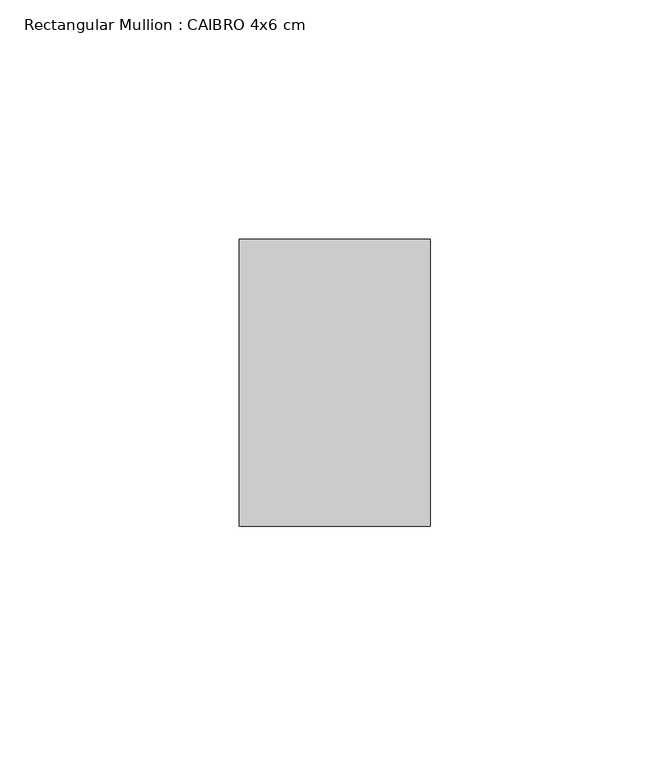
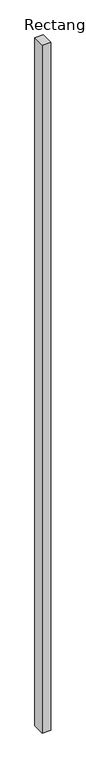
"""IFC4 building model written with IfcOpenShell, lengths in millimetres: member geometry, Rectangular Mullion : CAIBRO 4x6 cm."""

import ifcopenshell
import ifcopenshell.guid

model = None  # the IFC model being written
_history = None  # IfcOwnerHistory: only IFC2X3 demands one
_inside = {}  # id of a spatial element -> (the spatial element, [elements in it])
_under = {}  # id of a project, library or spatial element -> (it, [spatial elements below it])
_declared = {}  # id of a project -> (the project, [libraries it declares])
_typed = {}  # id of a type object -> (the type object, [elements of that type])
_made_of = {}  # id of a material, layer set ... -> (it, [elements and type objects made of it])


def new_model(schema):
    """Start an empty IFC model of exactly this schema.

    Asked for "IFC4X3", IfcOpenShell would pick the latest addendum, in which some entities
    have other attributes; the version numbers below select the first issue.
    IFC2X3 requires an IfcOwnerHistory on every rooted entity: one is made here for all.
    """
    global model, _history
    if schema == "IFC4X3":
        model = ifcopenshell.file(schema_version=(4, 3, 0, 0))
    else:
        model = ifcopenshell.file(schema=schema)
    _inside.clear()
    _under.clear()
    _declared.clear()
    _typed.clear()
    _made_of.clear()
    _history = None
    if model.schema == "IFC2X3":
        org = make("IfcOrganization", Name="unknown")
        user = make(
            "IfcPersonAndOrganization",
            ThePerson=make("IfcPerson", FamilyName="unknown"),
            TheOrganization=org,
        )
        app = make(
            "IfcApplication",
            ApplicationDeveloper=org,
            Version="unknown",
            ApplicationFullName="unknown",
            ApplicationIdentifier="unknown",
        )
        _history = make(
            "IfcOwnerHistory",
            OwningUser=user,
            OwningApplication=app,
            ChangeAction="ADDED",
            CreationDate=0,
        )
    return model


def make(cls, **values):
    """One entity of the class cls with the attributes given. An attribute that is None is left unset."""
    return model.create_entity(
        cls, **{name: value for name, value in values.items() if value is not None}
    )


def rooted(cls, **values):
    """An entity with a GlobalId (a new one), such as an element, a storey or a relation."""
    return make(cls, GlobalId=ifcopenshell.guid.new(), OwnerHistory=_history, **values)


def si_unit(unit_type, name, prefix=None):
    """IfcSIUnit, for example si_unit("LENGTHUNIT", "METRE", prefix="MILLI")."""
    return make("IfcSIUnit", UnitType=unit_type, Prefix=prefix, Name=name)


def assignment(units):
    """IfcUnitAssignment: the units of a project."""
    return None if units is None else make("IfcUnitAssignment", Units=units)


def point(xyz):
    """IfcCartesianPoint."""
    return None if xyz is None else make("IfcCartesianPoint", Coordinates=xyz)


def direction(xyz):
    """IfcDirection."""
    return None if xyz is None else make("IfcDirection", DirectionRatios=xyz)


def frame(location, z_axis=None, x_axis=None):
    """IfcAxis2Placement3D, a coordinate frame: its origin and axes. An axis left out is left unset."""
    return make(
        "IfcAxis2Placement3D",
        Location=point(location),
        Axis=direction(z_axis),
        RefDirection=direction(x_axis),
    )


def origin():
    """The frame at (0, 0, 0) with its axes left unset."""
    return frame((0.0, 0.0, 0.0))


def place(relative_to, where):
    """IfcLocalPlacement: puts the frame where relative to a parent placement (None: the world)."""
    return make(
        "IfcLocalPlacement", PlacementRelTo=relative_to, RelativePlacement=where
    )


def context(
    kind, dimensions, precision=None, world=None, true_north=None, identifier=None
):
    """IfcGeometricRepresentationContext, for example the 3D "Model" context."""
    return make(
        "IfcGeometricRepresentationContext",
        ContextIdentifier=identifier,
        ContextType=kind,
        CoordinateSpaceDimension=dimensions,
        Precision=precision,
        WorldCoordinateSystem=world,
        TrueNorth=true_north,
    )


def project(units=None, contexts=None):
    """IfcProject with its units and contexts."""
    return rooted(
        "IfcProject",
        Name="project",
        RepresentationContexts=contexts,
        UnitsInContext=assignment(units),
    )


def spatial(cls, under=None, at=None, **own):
    """A site, building, storey or space (cls), placed at a placement, below another one or the project."""
    s = rooted(cls, ObjectPlacement=at, **own)
    if under is not None:
        _under.setdefault(under.id(), (under, []))[1].append(s)
    return s


def polyline(points):
    """IfcPolyline through the points."""
    return make("IfcPolyline", Points=[point(p) for p in points])


def outline(outer, holes=None, kind="AREA"):
    """IfcArbitraryClosedProfileDef: a profile drawn as a closed curve; with holes, ...WithVoids."""
    if holes is None:
        return make("IfcArbitraryClosedProfileDef", ProfileType=kind, OuterCurve=outer)
    return make(
        "IfcArbitraryProfileDefWithVoids",
        ProfileType=kind,
        OuterCurve=outer,
        InnerCurves=holes,
    )


def extrude(swept, where, along, depth):
    """IfcExtrudedAreaSolid: the profile swept, set in the frame where, extruded along a direction by depth."""
    return make(
        "IfcExtrudedAreaSolid",
        SweptArea=swept,
        Position=where,
        ExtrudedDirection=direction(along),
        Depth=depth,
    )


def shape(context_of_items, identifier, shape_type, items):
    """IfcShapeRepresentation: the items that make up one representation, for example the "Body"."""
    return make(
        "IfcShapeRepresentation",
        ContextOfItems=context_of_items,
        RepresentationIdentifier=identifier,
        RepresentationType=shape_type,
        Items=items,
    )


def source(mapping_origin, context_of_items, identifier, shape_type, items):
    """IfcRepresentationMap: a shape defined once, which mapped items show again and again."""
    return make(
        "IfcRepresentationMap",
        MappingOrigin=mapping_origin,
        MappedRepresentation=shape(context_of_items, identifier, shape_type, items),
    )


def transform(
    local_origin,
    x_axis=None,
    y_axis=None,
    z_axis=None,
    scale=None,
    scale2=None,
    scale3=None,
    uniform=True,
):
    """IfcCartesianTransformationOperator3D, or its non-uniform kind. x_axis, y_axis, z_axis: its Axis1, 2, 3."""
    if uniform:
        return make(
            "IfcCartesianTransformationOperator3D",
            Axis1=direction(x_axis),
            Axis2=direction(y_axis),
            LocalOrigin=point(local_origin),
            Scale=scale,
            Axis3=direction(z_axis),
        )
    return make(
        "IfcCartesianTransformationOperator3DnonUniform",
        Axis1=direction(x_axis),
        Axis2=direction(y_axis),
        LocalOrigin=point(local_origin),
        Scale=scale,
        Axis3=direction(z_axis),
        Scale2=scale2,
        Scale3=scale3,
    )


def mapped(mapping_source, mapping_target):
    """IfcMappedItem: shows the shape of a source again, moved by a transform."""
    return make(
        "IfcMappedItem", MappingSource=mapping_source, MappingTarget=mapping_target
    )


def made_of(thing, what):
    """Note that an element or type object is made of a material, layer set ...; save() writes the relation."""
    if what is not None:
        _made_of.setdefault(what.id(), (what, []))[1].append(thing)
    return thing


def element(
    cls,
    number,
    at=None,
    inside=None,
    cuts=None,
    type_object=None,
    material=None,
    context=None,
    identifier="Body",
    shape_type=None,
    held_by="IfcProductDefinitionShape",
    body=None,
    shapes=None,
    **own,
):
    """One element of the class cls, such as IfcWall. Its Tag is "e" and its number.

    at: its placement. inside: the storey or other place that contains it. cuts: it is an
    opening in that element (IfcRelVoidsElement). A single representation is given by context,
    identifier, shape_type and body (its items); several are given by shapes. held_by: the class
    of the entity that holds the representations. save() writes the other relations.
    """
    e = rooted(cls, Tag="e%d" % number, ObjectPlacement=at, **own)
    if body is not None:
        shapes = [shape(context, identifier, shape_type, body)]
    if shapes is not None:
        e.Representation = make(held_by, Representations=shapes)
    if inside is not None:
        _inside.setdefault(inside.id(), (inside, []))[1].append(e)
    if cuts is not None:
        rooted(
            "IfcRelVoidsElement", RelatingBuildingElement=cuts, RelatedOpeningElement=e
        )
    if type_object is not None:
        _typed.setdefault(type_object.id(), (type_object, []))[1].append(e)
    return made_of(e, material)


def aggregate(whole, parts):
    """IfcRelAggregates: a whole, such as a stair, and the parts it consists of."""
    return rooted("IfcRelAggregates", RelatingObject=whole, RelatedObjects=parts)


def save(model, path):
    """Write the relations noted so far, then the file.

    IfcRelAggregates (storeys below a building ...), IfcRelContainedInSpatialStructure (elements
    in a storey), IfcRelDefinesByType, IfcRelAssociatesMaterial and IfcRelDeclares: one each for
    every whole, place, type object, material and project.
    """
    for whole, parts in _under.values():
        aggregate(whole, parts)
    for where, things in _inside.values():
        rooted(
            "IfcRelContainedInSpatialStructure",
            RelatedElements=things,
            RelatingStructure=where,
        )
    for kind, things in _typed.values():
        rooted("IfcRelDefinesByType", RelatedObjects=things, RelatingType=kind)
    for what, things in _made_of.values():
        rooted("IfcRelAssociatesMaterial", RelatedObjects=things, RelatingMaterial=what)
    for by, libraries in _declared.values():
        rooted("IfcRelDeclares", RelatingContext=by, RelatedDefinitions=libraries)
    model.write(path)


def rectangular_mullion_caibro_4x6_cm_f4ec4d87(model_context):
    return source(origin(), model_context, "Body", "SweptSolid", [
        extrude(outline(polyline([(0.0, 60.0), (0.0, 0.0), (-40.0, 0.0), (-40.0, 60.0), (0.0, 60.0)])), frame((0.0, 0.0, -3422.8694194), z_axis=(0.0, 0.0, 1.0), x_axis=(1.0, 0.0, 0.0)), (0.0, 0.0, 1.0), 3422.8694194),
    ])


if __name__ == "__main__":
    model = new_model("IFC4")
    model_context = context("Model", 3, world=origin())
    ifc_project = project(units=[si_unit("LENGTHUNIT", "METRE", prefix="MILLI")], contexts=[model_context])
    site = spatial("IfcSite", under=ifc_project)
    building = spatial("IfcBuilding", under=site)
    placement = place(None, origin())
    rectangular_mullion_caibro_4x6_cm_shape = rectangular_mullion_caibro_4x6_cm_f4ec4d87(model_context)
    element("IfcMember", 1, ObjectType="Rectangular Mullion : CAIBRO 4x6 cm", at=placement, inside=building, context=model_context, shape_type="MappedRepresentation", body=[
        mapped(rectangular_mullion_caibro_4x6_cm_shape, transform((0.0, 0.0, 0.0), x_axis=(1.0, 0.0, 0.0), y_axis=(0.0, 1.0, 0.0), z_axis=(0.0, 0.0, 1.0))),
    ])
    save(model, "model.ifc")
